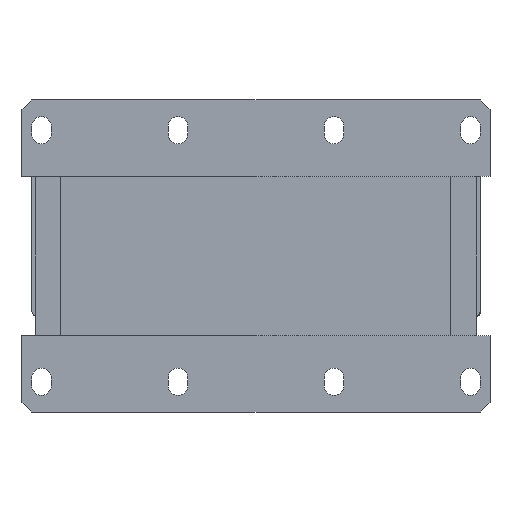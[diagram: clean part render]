
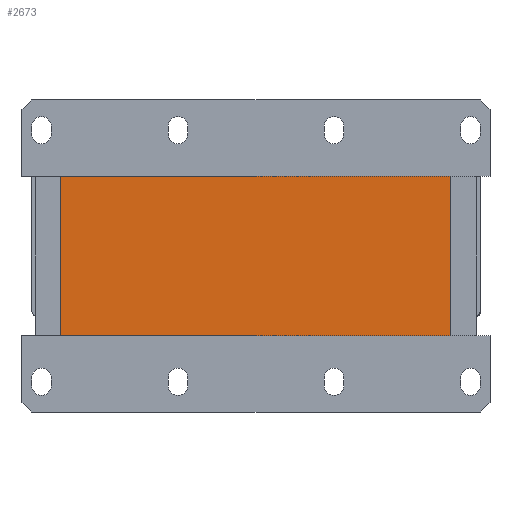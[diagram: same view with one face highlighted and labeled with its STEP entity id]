
A CAD part, front view. The second image highlights one B-rep face of the part: STEP entity #2673.
In plain terms, the highlighted planar face has unit normal (0, -1, 0).
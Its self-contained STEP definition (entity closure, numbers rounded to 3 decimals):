
#233=FACE_OUTER_BOUND('',#401,.T.);
#401=EDGE_LOOP('',(#2065,#2066,#2067,#2068));
#617=LINE('',#4119,#921);
#621=LINE('',#4127,#925);
#624=LINE('',#4133,#928);
#627=LINE('',#4138,#931);
#921=VECTOR('',#3333,10.);
#925=VECTOR('',#3339,10.);
#928=VECTOR('',#3344,10.);
#931=VECTOR('',#3349,10.);
#1205=VERTEX_POINT('',#4117);
#1206=VERTEX_POINT('',#4118);
#1209=VERTEX_POINT('',#4126);
#1211=VERTEX_POINT('',#4132);
#1509=EDGE_CURVE('',#1205,#1206,#617,.T.);
#1513=EDGE_CURVE('',#1206,#1209,#621,.T.);
#1516=EDGE_CURVE('',#1209,#1211,#624,.T.);
#1519=EDGE_CURVE('',#1211,#1205,#627,.T.);
#2065=ORIENTED_EDGE('',*,*,#1519,.T.);
#2066=ORIENTED_EDGE('',*,*,#1509,.T.);
#2067=ORIENTED_EDGE('',*,*,#1513,.T.);
#2068=ORIENTED_EDGE('',*,*,#1516,.T.);
#2549=PLANE('',#2889);
#2673=ADVANCED_FACE('',(#233),#2549,.T.);
#2889=AXIS2_PLACEMENT_3D('',#4140,#3351,#3352);
#3333=DIRECTION('',(0.,0.,1.));
#3339=DIRECTION('',(-1.,0.,0.));
#3344=DIRECTION('',(0.,0.,-1.));
#3349=DIRECTION('',(1.,0.,0.));
#3351=DIRECTION('center_axis',(0.,-1.,0.));
#3352=DIRECTION('ref_axis',(0.,0.,-1.));
#4117=CARTESIAN_POINT('',(100.,2.,-41.));
#4118=CARTESIAN_POINT('',(100.,2.,41.));
#4119=CARTESIAN_POINT('',(100.,2.,-41.));
#4126=CARTESIAN_POINT('',(-100.,2.,41.));
#4127=CARTESIAN_POINT('',(100.,2.,41.));
#4132=CARTESIAN_POINT('',(-100.,2.,-41.));
#4133=CARTESIAN_POINT('',(-100.,2.,41.));
#4138=CARTESIAN_POINT('',(-100.,2.,-41.));
#4140=CARTESIAN_POINT('Origin',(0.,2.,0.));
